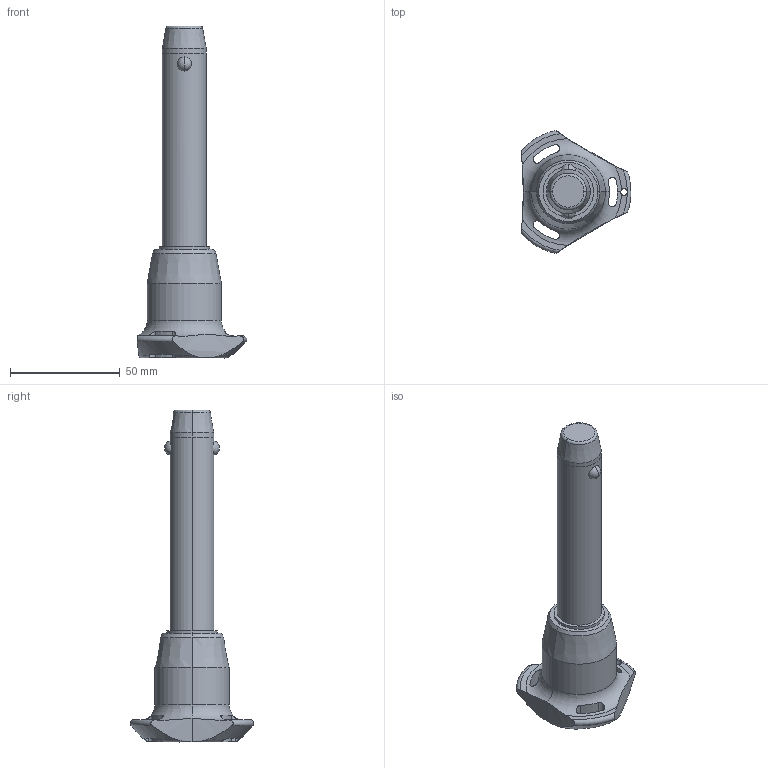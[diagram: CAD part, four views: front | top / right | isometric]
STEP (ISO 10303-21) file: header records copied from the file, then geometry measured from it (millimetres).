
FILE_DESCRIPTION (( 'STEP AP203' ), '1' );
FILE_NAME ('QR1726.M20-080-T.step', '2025-11-13T11:24:33', ( '' ), ( '' ), 'SwSTEP 2.0', 'SolidWorks 2019', '' );
FILE_SCHEMA (( 'CONFIG_CONTROL_DESIGN' ));
Length unit declared in the file: millimetre
Products named in the file (1): QR1726.M20-080-T
Bounding box: 50.04 x 56.02 x 151.2 mm (x, y, z)
Volume: 78908.4 mm3; surface area: 15994.2 mm2
Topology: 1 solids, 1 shells, 68 faces, 182 edges, 115 vertices
Faces by surface type: cylinder 32, cone 14, torus 11, sphere 6, plane 5
Entity records: 2938 total; most frequent: CARTESIAN_POINT 1192, ORIENTED_EDGE 364, DIRECTION 345, EDGE_CURVE 182, AXIS2_PLACEMENT_3D 154, VERTEX_POINT 115, CIRCLE 85, EDGE_LOOP 75
